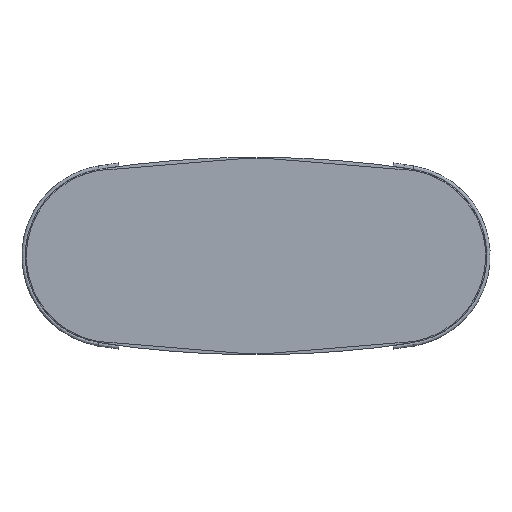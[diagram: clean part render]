
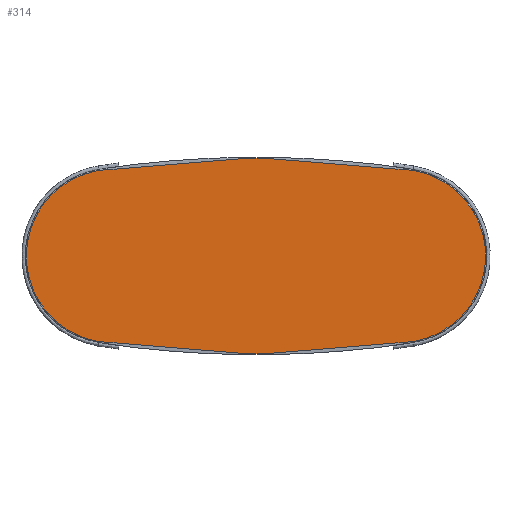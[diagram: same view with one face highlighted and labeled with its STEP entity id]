
A CAD part, top view. The second image highlights one B-rep face of the part: STEP entity #314.
In plain terms, the highlighted planar face has unit normal (0, 0, 1).
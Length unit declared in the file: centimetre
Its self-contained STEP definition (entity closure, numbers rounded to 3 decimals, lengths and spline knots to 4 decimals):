
#314=ADVANCED_FACE('',(#608),#5073,.T.);
#608=FACE_OUTER_BOUND('',#902,.T.);
#902=EDGE_LOOP('',(#1520,#1521,#1522,#1523,#1524,#1525,#1526,#1527));
#1520=ORIENTED_EDGE('',*,*,#3030,.T.);
#1521=ORIENTED_EDGE('',*,*,#3037,.T.);
#1522=ORIENTED_EDGE('',*,*,#3033,.T.);
#1523=ORIENTED_EDGE('',*,*,#3004,.T.);
#1524=ORIENTED_EDGE('',*,*,#3025,.T.);
#1525=ORIENTED_EDGE('',*,*,#3020,.T.);
#1526=ORIENTED_EDGE('',*,*,#3022,.T.);
#1527=ORIENTED_EDGE('',*,*,#3005,.T.);
#3004=EDGE_CURVE('',#4609,#4610,#3750,.T.);
#3005=EDGE_CURVE('',#4613,#4606,#3751,.T.);
#3020=EDGE_CURVE('',#4611,#4612,#4189,.T.);
#3022=EDGE_CURVE('',#4612,#4613,#4191,.T.);
#3025=EDGE_CURVE('',#4610,#4611,#4194,.T.);
#3030=EDGE_CURVE('',#4606,#4607,#4199,.T.);
#3033=EDGE_CURVE('',#4608,#4609,#4202,.T.);
#3037=EDGE_CURVE('',#4607,#4608,#4206,.T.);
#3750=B_SPLINE_CURVE_WITH_KNOTS('',1,(#10933,#10934),.UNSPECIFIED.,.F.,
 .F.,(2,2),(-42.,0.),.UNSPECIFIED.);
#3751=B_SPLINE_CURVE_WITH_KNOTS('',1,(#10935,#10936),.UNSPECIFIED.,.F.,
 .F.,(2,2),(0.,42.),.UNSPECIFIED.);
#4189=(
BOUNDED_CURVE()
B_SPLINE_CURVE(2,(#10975,#10976,#10977,#10978,#10979),.UNSPECIFIED.,.F.,
 .F.)
B_SPLINE_CURVE_WITH_KNOTS((3,2,3),(0.,65.6395,131.279),
 .UNSPECIFIED.)
CURVE()
GEOMETRIC_REPRESENTATION_ITEM()
RATIONAL_B_SPLINE_CURVE((1.,0.763,1.,0.763,1.))
REPRESENTATION_ITEM('')
);
#4191=(
BOUNDED_CURVE()
B_SPLINE_CURVE(2,(#10983,#10984,#10985),.UNSPECIFIED.,.F.,.F.)
B_SPLINE_CURVE_WITH_KNOTS((3,3),(0.,78.8309),.UNSPECIFIED.)
CURVE()
GEOMETRIC_REPRESENTATION_ITEM()
RATIONAL_B_SPLINE_CURVE((1.,0.997,1.))
REPRESENTATION_ITEM('')
);
#4194=(
BOUNDED_CURVE()
B_SPLINE_CURVE(2,(#10992,#10993,#10994),.UNSPECIFIED.,.F.,.F.)
B_SPLINE_CURVE_WITH_KNOTS((3,3),(0.,78.8309),.UNSPECIFIED.)
CURVE()
GEOMETRIC_REPRESENTATION_ITEM()
RATIONAL_B_SPLINE_CURVE((1.,0.997,1.))
REPRESENTATION_ITEM('')
);
#4199=(
BOUNDED_CURVE()
B_SPLINE_CURVE(2,(#11007,#11008,#11009),.UNSPECIFIED.,.F.,.F.)
B_SPLINE_CURVE_WITH_KNOTS((3,3),(0.,78.8309),.UNSPECIFIED.)
CURVE()
GEOMETRIC_REPRESENTATION_ITEM()
RATIONAL_B_SPLINE_CURVE((1.,0.997,1.))
REPRESENTATION_ITEM('')
);
#4202=(
BOUNDED_CURVE()
B_SPLINE_CURVE(2,(#11016,#11017,#11018),.UNSPECIFIED.,.F.,.F.)
B_SPLINE_CURVE_WITH_KNOTS((3,3),(0.,78.8309),.UNSPECIFIED.)
CURVE()
GEOMETRIC_REPRESENTATION_ITEM()
RATIONAL_B_SPLINE_CURVE((1.,0.997,1.))
REPRESENTATION_ITEM('')
);
#4206=(
BOUNDED_CURVE()
B_SPLINE_CURVE(2,(#11028,#11029,#11030,#11031,#11032),.UNSPECIFIED.,.F.,
 .F.)
B_SPLINE_CURVE_WITH_KNOTS((3,2,3),(0.,65.6395,131.279),
 .UNSPECIFIED.)
CURVE()
GEOMETRIC_REPRESENTATION_ITEM()
RATIONAL_B_SPLINE_CURVE((1.,0.763,1.,0.763,1.))
REPRESENTATION_ITEM('')
);
#4606=VERTEX_POINT('',#10901);
#4607=VERTEX_POINT('',#10902);
#4608=VERTEX_POINT('',#10903);
#4609=VERTEX_POINT('',#10904);
#4610=VERTEX_POINT('',#10905);
#4611=VERTEX_POINT('',#10906);
#4612=VERTEX_POINT('',#10907);
#4613=VERTEX_POINT('',#10908);
#5073=PLANE('',#5387);
#5387=AXIS2_PLACEMENT_3D('',#10300,#5521,$);
#5521=DIRECTION('',(0.,0.,1.));
#10300=CARTESIAN_POINT('',(28.8232,278.6003,37.9525));
#10901=CARTESIAN_POINT('',(-88.7019,173.6697,37.9525));
#10902=CARTESIAN_POINT('',(-10.2228,180.1089,37.9525));
#10903=CARTESIAN_POINT('',(-10.2228,272.1611,37.9525));
#10904=CARTESIAN_POINT('',(-88.7019,278.6003,37.9525));
#10905=CARTESIAN_POINT('',(-100.7019,278.6003,37.9525));
#10906=CARTESIAN_POINT('',(-179.181,272.1611,37.9525));
#10907=CARTESIAN_POINT('',(-179.181,180.1089,37.9525));
#10908=CARTESIAN_POINT('',(-100.7019,173.6697,37.9525));
#10933=CARTESIAN_POINT('',(-88.7019,278.6003,37.9525));
#10934=CARTESIAN_POINT('',(-100.7019,278.6003,37.9525));
#10935=CARTESIAN_POINT('',(-100.7019,173.6697,37.9525));
#10936=CARTESIAN_POINT('',(-88.7019,173.6697,37.9525));
#10975=CARTESIAN_POINT('',(-179.181,272.1611,37.9525));
#10976=CARTESIAN_POINT('',(-218.227,265.7102,37.9525));
#10977=CARTESIAN_POINT('',(-218.227,226.135,37.9525));
#10978=CARTESIAN_POINT('',(-218.227,186.5597,37.9525));
#10979=CARTESIAN_POINT('',(-179.181,180.1089,37.9525));
#10983=CARTESIAN_POINT('',(-179.181,180.1089,37.9525));
#10984=CARTESIAN_POINT('',(-140.2056,173.6697,37.9525));
#10985=CARTESIAN_POINT('',(-100.7019,173.6697,37.9525));
#10992=CARTESIAN_POINT('',(-100.7019,278.6003,37.9525));
#10993=CARTESIAN_POINT('',(-140.2056,278.6003,37.9525));
#10994=CARTESIAN_POINT('',(-179.181,272.1611,37.9525));
#11007=CARTESIAN_POINT('',(-88.7019,173.6697,37.9525));
#11008=CARTESIAN_POINT('',(-49.1982,173.6697,37.9525));
#11009=CARTESIAN_POINT('',(-10.2228,180.1089,37.9525));
#11016=CARTESIAN_POINT('',(-10.2228,272.1611,37.9525));
#11017=CARTESIAN_POINT('',(-49.1982,278.6003,37.9525));
#11018=CARTESIAN_POINT('',(-88.7019,278.6003,37.9525));
#11028=CARTESIAN_POINT('',(-10.2228,180.1089,37.9525));
#11029=CARTESIAN_POINT('',(28.8232,186.5597,37.9525));
#11030=CARTESIAN_POINT('',(28.8232,226.135,37.9525));
#11031=CARTESIAN_POINT('',(28.8232,265.7102,37.9525));
#11032=CARTESIAN_POINT('',(-10.2228,272.1611,37.9525));
